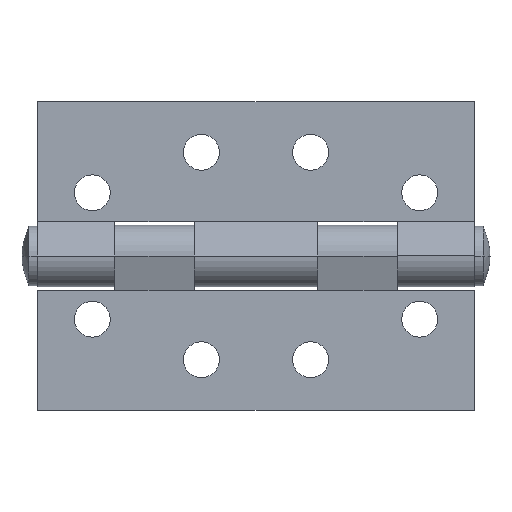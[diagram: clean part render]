
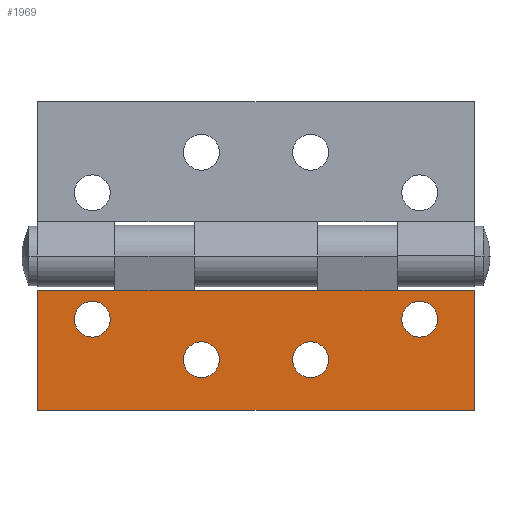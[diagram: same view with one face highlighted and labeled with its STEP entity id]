
A CAD part, front view. The second image highlights one B-rep face of the part: STEP entity #1969.
In plain terms, the highlighted planar face has unit normal (0, -1, 0).
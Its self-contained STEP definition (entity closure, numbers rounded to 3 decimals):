
#20 = CARTESIAN_POINT ( 'NONE',  ( -42.5, -1.5, -23.37 ) ) ;
#30 = CARTESIAN_POINT ( 'NONE',  ( 10.625, -1.5, -17.07 ) ) ;
#36 = LINE ( 'NONE', #3556, #2037 ) ;
#39 = DIRECTION ( 'NONE',  ( 0., 0., -1. ) ) ;
#99 = EDGE_CURVE ( 'NONE', #1171, #1305, #1753, .T. ) ;
#106 = DIRECTION ( 'NONE',  ( 0., 0., -1. ) ) ;
#132 = AXIS2_PLACEMENT_3D ( 'NONE', #3349, #2464, #2423 ) ;
#139 = CIRCLE ( 'NONE', #132, 3.5 ) ;
#211 = AXIS2_PLACEMENT_3D ( 'NONE', #448, #2280, #1721 ) ;
#215 = ORIENTED_EDGE ( 'NONE', *, *, #2546, .F. ) ;
#284 = VERTEX_POINT ( 'NONE', #3078 ) ;
#320 = DIRECTION ( 'NONE',  ( 0., 0., -1. ) ) ;
#428 = ORIENTED_EDGE ( 'NONE', *, *, #876, .T. ) ;
#430 = CARTESIAN_POINT ( 'NONE',  ( 27.5, -1.5, 0. ) ) ;
#448 = CARTESIAN_POINT ( 'NONE',  ( -10.625, -1.5, -13.57 ) ) ;
#455 = DIRECTION ( 'NONE',  ( 0., 0., 1. ) ) ;
#491 = VERTEX_POINT ( 'NONE', #3562 ) ;
#498 = ORIENTED_EDGE ( 'NONE', *, *, #3794, .F. ) ;
#499 = VECTOR ( 'NONE', #808, 1000. ) ;
#507 = CARTESIAN_POINT ( 'NONE',  ( -42.5, -1.5, -23.37 ) ) ;
#552 = LINE ( 'NONE', #2136, #3771 ) ;
#609 = EDGE_CURVE ( 'NONE', #1700, #491, #139, .T. ) ;
#613 = CARTESIAN_POINT ( 'NONE',  ( 42.5, -1.5, 0. ) ) ;
#617 = DIRECTION ( 'NONE',  ( -1., 0., 0. ) ) ;
#621 = DIRECTION ( 'NONE',  ( 0., -1., 0. ) ) ;
#699 = EDGE_CURVE ( 'NONE', #2690, #3223, #1951, .T. ) ;
#742 = CARTESIAN_POINT ( 'NONE',  ( 42.5, -1.5, 0. ) ) ;
#762 = EDGE_LOOP ( 'NONE', ( #1199, #2217 ) ) ;
#765 = EDGE_LOOP ( 'NONE', ( #2387, #1274 ) ) ;
#770 = ORIENTED_EDGE ( 'NONE', *, *, #3277, .T. ) ;
#794 = AXIS2_PLACEMENT_3D ( 'NONE', #2061, #1164, #3537 ) ;
#803 = FACE_BOUND ( 'NONE', #765, .T. ) ;
#808 = DIRECTION ( 'NONE',  ( 1., 0., 0. ) ) ;
#837 = EDGE_CURVE ( 'NONE', #2253, #983, #3454, .T. ) ;
#838 = CARTESIAN_POINT ( 'NONE',  ( -42.5, -1.5, 0. ) ) ;
#849 = CIRCLE ( 'NONE', #970, 3.5 ) ;
#876 = EDGE_CURVE ( 'NONE', #2253, #2395, #2181, .T. ) ;
#908 = EDGE_CURVE ( 'NONE', #1853, #2363, #2453, .T. ) ;
#948 = CARTESIAN_POINT ( 'NONE',  ( -31.875, -1.5, -5.67 ) ) ;
#970 = AXIS2_PLACEMENT_3D ( 'NONE', #948, #621, #39 ) ;
#974 = CIRCLE ( 'NONE', #2650, 3.5 ) ;
#983 = VERTEX_POINT ( 'NONE', #2000 ) ;
#1038 = EDGE_LOOP ( 'NONE', ( #3038, #1947, #1606, #2325, #770, #1082, #428, #215 ) ) ;
#1082 = ORIENTED_EDGE ( 'NONE', *, *, #837, .F. ) ;
#1091 = FACE_BOUND ( 'NONE', #1092, .T. ) ;
#1092 = EDGE_LOOP ( 'NONE', ( #3121, #1590 ) ) ;
#1126 = CARTESIAN_POINT ( 'NONE',  ( -10.625, -1.5, -10.07 ) ) ;
#1141 = CIRCLE ( 'NONE', #2345, 3.5 ) ;
#1152 = EDGE_CURVE ( 'NONE', #2481, #1961, #2028, .T. ) ;
#1164 = DIRECTION ( 'NONE',  ( 0., -1., 0. ) ) ;
#1171 = VERTEX_POINT ( 'NONE', #507 ) ;
#1199 = ORIENTED_EDGE ( 'NONE', *, *, #908, .F. ) ;
#1273 = CARTESIAN_POINT ( 'NONE',  ( -27.5, -1.5, 0. ) ) ;
#1274 = ORIENTED_EDGE ( 'NONE', *, *, #2100, .F. ) ;
#1305 = VERTEX_POINT ( 'NONE', #838 ) ;
#1333 = DIRECTION ( 'NONE',  ( 0., 0., -1. ) ) ;
#1343 = DIRECTION ( 'NONE',  ( 0., -1., 0. ) ) ;
#1369 = VECTOR ( 'NONE', #1666, 1000. ) ;
#1489 = DIRECTION ( 'NONE',  ( 0., -1., 0. ) ) ;
#1493 = VERTEX_POINT ( 'NONE', #30 ) ;
#1524 = CARTESIAN_POINT ( 'NONE',  ( 10.625, -1.5, -13.57 ) ) ;
#1555 = CARTESIAN_POINT ( 'NONE',  ( -31.875, -1.5, -9.17 ) ) ;
#1590 = ORIENTED_EDGE ( 'NONE', *, *, #1888, .F. ) ;
#1606 = ORIENTED_EDGE ( 'NONE', *, *, #699, .T. ) ;
#1666 = DIRECTION ( 'NONE',  ( -1., 0., 0. ) ) ;
#1700 = VERTEX_POINT ( 'NONE', #1126 ) ;
#1721 = DIRECTION ( 'NONE',  ( 0., 0., -1. ) ) ;
#1750 = VECTOR ( 'NONE', #455, 1000. ) ;
#1753 = LINE ( 'NONE', #20, #2672 ) ;
#1755 = DIRECTION ( 'NONE',  ( 0., -1., 0. ) ) ;
#1764 = DIRECTION ( 'NONE',  ( 0., 0., -1. ) ) ;
#1769 = DIRECTION ( 'NONE',  ( 0., -1., 0. ) ) ;
#1785 = DIRECTION ( 'NONE',  ( -1., 0., 0. ) ) ;
#1853 = VERTEX_POINT ( 'NONE', #3591 ) ;
#1876 = CARTESIAN_POINT ( 'NONE',  ( 42.5, -1.5, -23.37 ) ) ;
#1888 = EDGE_CURVE ( 'NONE', #1961, #2481, #849, .T. ) ;
#1918 = AXIS2_PLACEMENT_3D ( 'NONE', #3426, #2234, #3715 ) ;
#1947 = ORIENTED_EDGE ( 'NONE', *, *, #3473, .F. ) ;
#1951 = LINE ( 'NONE', #2218, #1750 ) ;
#1961 = VERTEX_POINT ( 'NONE', #1555 ) ;
#1969 = ADVANCED_FACE ( 'NONE', ( #803, #2070, #3162, #1091, #2652 ), #3631, .T. ) ;
#2000 = CARTESIAN_POINT ( 'NONE',  ( 12., -1.5, 0. ) ) ;
#2015 = VERTEX_POINT ( 'NONE', #430 ) ;
#2028 = CIRCLE ( 'NONE', #1918, 3.5 ) ;
#2037 = VECTOR ( 'NONE', #617, 1000. ) ;
#2061 = CARTESIAN_POINT ( 'NONE',  ( 10.625, -1.5, -13.57 ) ) ;
#2070 = FACE_BOUND ( 'NONE', #2380, .T. ) ;
#2080 = CARTESIAN_POINT ( 'NONE',  ( 42.5, -1.5, 0. ) ) ;
#2100 = EDGE_CURVE ( 'NONE', #491, #1700, #3176, .T. ) ;
#2128 = DIRECTION ( 'NONE',  ( 1., 0., 0. ) ) ;
#2136 = CARTESIAN_POINT ( 'NONE',  ( 42.5, -1.5, 0. ) ) ;
#2181 = LINE ( 'NONE', #3743, #1369 ) ;
#2217 = ORIENTED_EDGE ( 'NONE', *, *, #2236, .F. ) ;
#2218 = CARTESIAN_POINT ( 'NONE',  ( 42.5, -1.5, -23.37 ) ) ;
#2234 = DIRECTION ( 'NONE',  ( 0., -1., 0. ) ) ;
#2235 = CARTESIAN_POINT ( 'NONE',  ( 31.875, -1.5, -5.67 ) ) ;
#2236 = EDGE_CURVE ( 'NONE', #2363, #1853, #1141, .T. ) ;
#2253 = VERTEX_POINT ( 'NONE', #2415 ) ;
#2280 = DIRECTION ( 'NONE',  ( 0., -1., 0. ) ) ;
#2325 = ORIENTED_EDGE ( 'NONE', *, *, #2791, .T. ) ;
#2345 = AXIS2_PLACEMENT_3D ( 'NONE', #2235, #1343, #1333 ) ;
#2358 = CARTESIAN_POINT ( 'NONE',  ( 31.875, -1.5, -5.67 ) ) ;
#2363 = VERTEX_POINT ( 'NONE', #3358 ) ;
#2380 = EDGE_LOOP ( 'NONE', ( #3670, #498 ) ) ;
#2387 = ORIENTED_EDGE ( 'NONE', *, *, #609, .F. ) ;
#2395 = VERTEX_POINT ( 'NONE', #1273 ) ;
#2407 = CARTESIAN_POINT ( 'NONE',  ( -31.875, -1.5, -2.17 ) ) ;
#2415 = CARTESIAN_POINT ( 'NONE',  ( -12., -1.5, 0. ) ) ;
#2423 = DIRECTION ( 'NONE',  ( 0., 0., -1. ) ) ;
#2453 = CIRCLE ( 'NONE', #3164, 3.5 ) ;
#2464 = DIRECTION ( 'NONE',  ( 0., -1., 0. ) ) ;
#2481 = VERTEX_POINT ( 'NONE', #2407 ) ;
#2489 = VECTOR ( 'NONE', #3683, 1000. ) ;
#2546 = EDGE_CURVE ( 'NONE', #1305, #2395, #3805, .T. ) ;
#2650 = AXIS2_PLACEMENT_3D ( 'NONE', #1524, #1489, #320 ) ;
#2652 = FACE_OUTER_BOUND ( 'NONE', #1038, .T. ) ;
#2672 = VECTOR ( 'NONE', #2709, 1000. ) ;
#2690 = VERTEX_POINT ( 'NONE', #2731 ) ;
#2709 = DIRECTION ( 'NONE',  ( 0., 0., 1. ) ) ;
#2731 = CARTESIAN_POINT ( 'NONE',  ( 42.5, -1.5, -23.37 ) ) ;
#2791 = EDGE_CURVE ( 'NONE', #3223, #2015, #3720, .T. ) ;
#2834 = CARTESIAN_POINT ( 'NONE',  ( 42.5, -1.5, 0. ) ) ;
#3038 = ORIENTED_EDGE ( 'NONE', *, *, #99, .F. ) ;
#3078 = CARTESIAN_POINT ( 'NONE',  ( 10.625, -1.5, -10.07 ) ) ;
#3121 = ORIENTED_EDGE ( 'NONE', *, *, #1152, .F. ) ;
#3162 = FACE_BOUND ( 'NONE', #762, .T. ) ;
#3164 = AXIS2_PLACEMENT_3D ( 'NONE', #2358, #1755, #1764 ) ;
#3176 = CIRCLE ( 'NONE', #211, 3.5 ) ;
#3215 = EDGE_CURVE ( 'NONE', #284, #1493, #974, .T. ) ;
#3223 = VERTEX_POINT ( 'NONE', #2080 ) ;
#3277 = EDGE_CURVE ( 'NONE', #2015, #983, #552, .T. ) ;
#3349 = CARTESIAN_POINT ( 'NONE',  ( -10.625, -1.5, -13.57 ) ) ;
#3358 = CARTESIAN_POINT ( 'NONE',  ( 31.875, -1.5, -9.17 ) ) ;
#3372 = CIRCLE ( 'NONE', #794, 3.5 ) ;
#3426 = CARTESIAN_POINT ( 'NONE',  ( -31.875, -1.5, -5.67 ) ) ;
#3454 = LINE ( 'NONE', #2834, #499 ) ;
#3473 = EDGE_CURVE ( 'NONE', #2690, #1171, #36, .T. ) ;
#3537 = DIRECTION ( 'NONE',  ( 0., 0., -1. ) ) ;
#3556 = CARTESIAN_POINT ( 'NONE',  ( 42.5, -1.5, -23.37 ) ) ;
#3562 = CARTESIAN_POINT ( 'NONE',  ( -10.625, -1.5, -17.07 ) ) ;
#3591 = CARTESIAN_POINT ( 'NONE',  ( 31.875, -1.5, -2.17 ) ) ;
#3631 = PLANE ( 'NONE',  #3680 ) ;
#3640 = VECTOR ( 'NONE', #2128, 1000. ) ;
#3670 = ORIENTED_EDGE ( 'NONE', *, *, #3215, .F. ) ;
#3680 = AXIS2_PLACEMENT_3D ( 'NONE', #1876, #1769, #106 ) ;
#3683 = DIRECTION ( 'NONE',  ( -1., 0., 0. ) ) ;
#3715 = DIRECTION ( 'NONE',  ( 0., 0., -1. ) ) ;
#3720 = LINE ( 'NONE', #742, #2489 ) ;
#3743 = CARTESIAN_POINT ( 'NONE',  ( 42.5, -1.5, 0. ) ) ;
#3771 = VECTOR ( 'NONE', #1785, 1000. ) ;
#3794 = EDGE_CURVE ( 'NONE', #1493, #284, #3372, .T. ) ;
#3805 = LINE ( 'NONE', #613, #3640 ) ;
